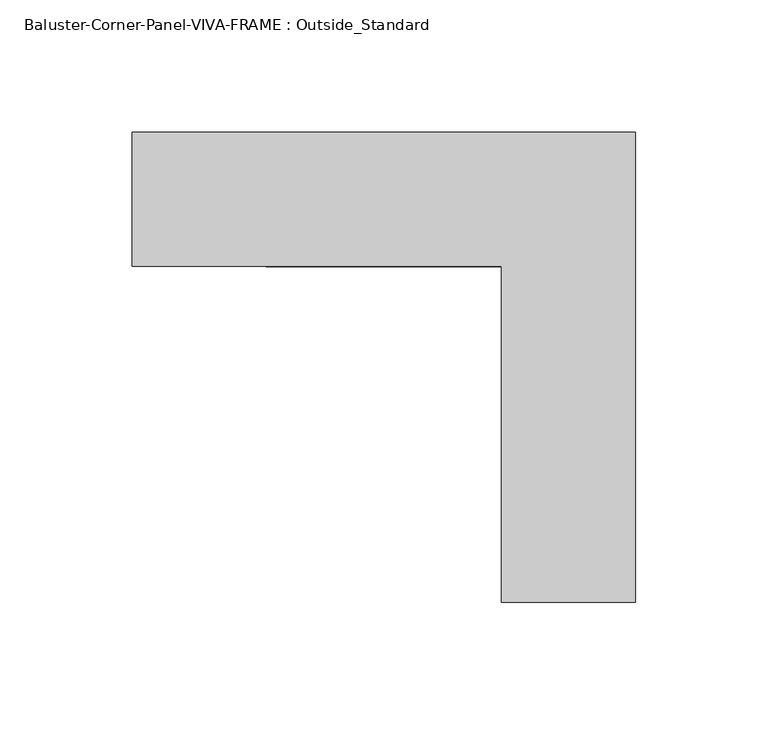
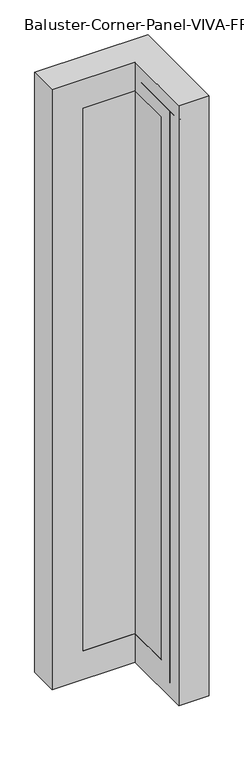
"""IFC4 building model written with IfcOpenShell, lengths in millimetres: railing geometry, Baluster-Corner-Panel-VIVA-FRAME : Outside_Standard."""

import ifcopenshell
import ifcopenshell.guid

model = None  # the IFC model being written
_history = None  # IfcOwnerHistory: only IFC2X3 demands one
_inside = {}  # id of a spatial element -> (the spatial element, [elements in it])
_under = {}  # id of a project, library or spatial element -> (it, [spatial elements below it])
_declared = {}  # id of a project -> (the project, [libraries it declares])
_typed = {}  # id of a type object -> (the type object, [elements of that type])
_made_of = {}  # id of a material, layer set ... -> (it, [elements and type objects made of it])


def new_model(schema):
    """Start an empty IFC model of exactly this schema.

    Asked for "IFC4X3", IfcOpenShell would pick the latest addendum, in which some entities
    have other attributes; the version numbers below select the first issue.
    IFC2X3 requires an IfcOwnerHistory on every rooted entity: one is made here for all.
    """
    global model, _history
    if schema == "IFC4X3":
        model = ifcopenshell.file(schema_version=(4, 3, 0, 0))
    else:
        model = ifcopenshell.file(schema=schema)
    _inside.clear()
    _under.clear()
    _declared.clear()
    _typed.clear()
    _made_of.clear()
    _history = None
    if model.schema == "IFC2X3":
        org = make("IfcOrganization", Name="unknown")
        user = make(
            "IfcPersonAndOrganization",
            ThePerson=make("IfcPerson", FamilyName="unknown"),
            TheOrganization=org,
        )
        app = make(
            "IfcApplication",
            ApplicationDeveloper=org,
            Version="unknown",
            ApplicationFullName="unknown",
            ApplicationIdentifier="unknown",
        )
        _history = make(
            "IfcOwnerHistory",
            OwningUser=user,
            OwningApplication=app,
            ChangeAction="ADDED",
            CreationDate=0,
        )
    return model


def make(cls, **values):
    """One entity of the class cls with the attributes given. An attribute that is None is left unset."""
    return model.create_entity(
        cls, **{name: value for name, value in values.items() if value is not None}
    )


def rooted(cls, **values):
    """An entity with a GlobalId (a new one), such as an element, a storey or a relation."""
    return make(cls, GlobalId=ifcopenshell.guid.new(), OwnerHistory=_history, **values)


def si_unit(unit_type, name, prefix=None):
    """IfcSIUnit, for example si_unit("LENGTHUNIT", "METRE", prefix="MILLI")."""
    return make("IfcSIUnit", UnitType=unit_type, Prefix=prefix, Name=name)


def assignment(units):
    """IfcUnitAssignment: the units of a project."""
    return None if units is None else make("IfcUnitAssignment", Units=units)


def point(xyz):
    """IfcCartesianPoint."""
    return None if xyz is None else make("IfcCartesianPoint", Coordinates=xyz)


def direction(xyz):
    """IfcDirection."""
    return None if xyz is None else make("IfcDirection", DirectionRatios=xyz)


def frame(location, z_axis=None, x_axis=None):
    """IfcAxis2Placement3D, a coordinate frame: its origin and axes. An axis left out is left unset."""
    return make(
        "IfcAxis2Placement3D",
        Location=point(location),
        Axis=direction(z_axis),
        RefDirection=direction(x_axis),
    )


def origin():
    """The frame at (0, 0, 0) with its axes left unset."""
    return frame((0.0, 0.0, 0.0))


def place(relative_to, where):
    """IfcLocalPlacement: puts the frame where relative to a parent placement (None: the world)."""
    return make(
        "IfcLocalPlacement", PlacementRelTo=relative_to, RelativePlacement=where
    )


def context(
    kind, dimensions, precision=None, world=None, true_north=None, identifier=None
):
    """IfcGeometricRepresentationContext, for example the 3D "Model" context."""
    return make(
        "IfcGeometricRepresentationContext",
        ContextIdentifier=identifier,
        ContextType=kind,
        CoordinateSpaceDimension=dimensions,
        Precision=precision,
        WorldCoordinateSystem=world,
        TrueNorth=true_north,
    )


def project(units=None, contexts=None):
    """IfcProject with its units and contexts."""
    return rooted(
        "IfcProject",
        Name="project",
        RepresentationContexts=contexts,
        UnitsInContext=assignment(units),
    )


def spatial(cls, under=None, at=None, **own):
    """A site, building, storey or space (cls), placed at a placement, below another one or the project."""
    s = rooted(cls, ObjectPlacement=at, **own)
    if under is not None:
        _under.setdefault(under.id(), (under, []))[1].append(s)
    return s


def polyline(points):
    """IfcPolyline through the points."""
    return make("IfcPolyline", Points=[point(p) for p in points])


def outline(outer, holes=None, kind="AREA"):
    """IfcArbitraryClosedProfileDef: a profile drawn as a closed curve; with holes, ...WithVoids."""
    if holes is None:
        return make("IfcArbitraryClosedProfileDef", ProfileType=kind, OuterCurve=outer)
    return make(
        "IfcArbitraryProfileDefWithVoids",
        ProfileType=kind,
        OuterCurve=outer,
        InnerCurves=holes,
    )


def extrude(swept, where, along, depth):
    """IfcExtrudedAreaSolid: the profile swept, set in the frame where, extruded along a direction by depth."""
    return make(
        "IfcExtrudedAreaSolid",
        SweptArea=swept,
        Position=where,
        ExtrudedDirection=direction(along),
        Depth=depth,
    )


def faces_of(points, faces, orient=None, outer=None):
    """IfcFace entities. A face is a list of loops; a loop is a list of indices into points, from 0.

    orient and outer hold one flag for each loop. By default every Orientation is true, the
    first loop of a face is its IfcFaceOuterBound and the others are IfcFaceBound.
    """
    made = []
    for i, loops in enumerate(faces):
        bounds = []
        for j, loop in enumerate(loops):
            is_outer = j == 0 if outer is None else outer[i][j]
            bounds.append(
                make(
                    "IfcFaceOuterBound" if is_outer else "IfcFaceBound",
                    Bound=make("IfcPolyLoop", Polygon=[points[k] for k in loop]),
                    Orientation=True if orient is None else orient[i][j],
                )
            )
        made.append(make("IfcFace", Bounds=bounds))
    return made


def faceted_brep(points, faces, orient=None, outer=None, voids=None):
    """IfcFacetedBrep: a solid bounded by flat faces; with voids (closed shells), ...WithVoids."""
    shared = [point(p) for p in points]
    hull = make("IfcClosedShell", CfsFaces=faces_of(shared, faces, orient, outer))
    if voids is None:
        return make("IfcFacetedBrep", Outer=hull)
    return make(
        "IfcFacetedBrepWithVoids",
        Outer=hull,
        Voids=[
            make(cls, CfsFaces=faces_of(shared, fs, o, b)) for cls, fs, o, b in voids
        ],
    )


def shape(context_of_items, identifier, shape_type, items):
    """IfcShapeRepresentation: the items that make up one representation, for example the "Body"."""
    return make(
        "IfcShapeRepresentation",
        ContextOfItems=context_of_items,
        RepresentationIdentifier=identifier,
        RepresentationType=shape_type,
        Items=items,
    )


def source(mapping_origin, context_of_items, identifier, shape_type, items):
    """IfcRepresentationMap: a shape defined once, which mapped items show again and again."""
    return make(
        "IfcRepresentationMap",
        MappingOrigin=mapping_origin,
        MappedRepresentation=shape(context_of_items, identifier, shape_type, items),
    )


def transform(
    local_origin,
    x_axis=None,
    y_axis=None,
    z_axis=None,
    scale=None,
    scale2=None,
    scale3=None,
    uniform=True,
):
    """IfcCartesianTransformationOperator3D, or its non-uniform kind. x_axis, y_axis, z_axis: its Axis1, 2, 3."""
    if uniform:
        return make(
            "IfcCartesianTransformationOperator3D",
            Axis1=direction(x_axis),
            Axis2=direction(y_axis),
            LocalOrigin=point(local_origin),
            Scale=scale,
            Axis3=direction(z_axis),
        )
    return make(
        "IfcCartesianTransformationOperator3DnonUniform",
        Axis1=direction(x_axis),
        Axis2=direction(y_axis),
        LocalOrigin=point(local_origin),
        Scale=scale,
        Axis3=direction(z_axis),
        Scale2=scale2,
        Scale3=scale3,
    )


def mapped(mapping_source, mapping_target):
    """IfcMappedItem: shows the shape of a source again, moved by a transform."""
    return make(
        "IfcMappedItem", MappingSource=mapping_source, MappingTarget=mapping_target
    )


def made_of(thing, what):
    """Note that an element or type object is made of a material, layer set ...; save() writes the relation."""
    if what is not None:
        _made_of.setdefault(what.id(), (what, []))[1].append(thing)
    return thing


def element(
    cls,
    number,
    at=None,
    inside=None,
    cuts=None,
    type_object=None,
    material=None,
    context=None,
    identifier="Body",
    shape_type=None,
    held_by="IfcProductDefinitionShape",
    body=None,
    shapes=None,
    **own,
):
    """One element of the class cls, such as IfcWall. Its Tag is "e" and its number.

    at: its placement. inside: the storey or other place that contains it. cuts: it is an
    opening in that element (IfcRelVoidsElement). A single representation is given by context,
    identifier, shape_type and body (its items); several are given by shapes. held_by: the class
    of the entity that holds the representations. save() writes the other relations.
    """
    e = rooted(cls, Tag="e%d" % number, ObjectPlacement=at, **own)
    if body is not None:
        shapes = [shape(context, identifier, shape_type, body)]
    if shapes is not None:
        e.Representation = make(held_by, Representations=shapes)
    if inside is not None:
        _inside.setdefault(inside.id(), (inside, []))[1].append(e)
    if cuts is not None:
        rooted(
            "IfcRelVoidsElement", RelatingBuildingElement=cuts, RelatedOpeningElement=e
        )
    if type_object is not None:
        _typed.setdefault(type_object.id(), (type_object, []))[1].append(e)
    return made_of(e, material)


def aggregate(whole, parts):
    """IfcRelAggregates: a whole, such as a stair, and the parts it consists of."""
    return rooted("IfcRelAggregates", RelatingObject=whole, RelatedObjects=parts)


def save(model, path):
    """Write the relations noted so far, then the file.

    IfcRelAggregates (storeys below a building ...), IfcRelContainedInSpatialStructure (elements
    in a storey), IfcRelDefinesByType, IfcRelAssociatesMaterial and IfcRelDeclares: one each for
    every whole, place, type object, material and project.
    """
    for whole, parts in _under.values():
        aggregate(whole, parts)
    for where, things in _inside.values():
        rooted(
            "IfcRelContainedInSpatialStructure",
            RelatedElements=things,
            RelatingStructure=where,
        )
    for kind, things in _typed.values():
        rooted("IfcRelDefinesByType", RelatedObjects=things, RelatingType=kind)
    for what, things in _made_of.values():
        rooted("IfcRelAssociatesMaterial", RelatedObjects=things, RelatingMaterial=what)
    for by, libraries in _declared.values():
        rooted("IfcRelDeclares", RelatingContext=by, RelatedDefinitions=libraries)
    model.write(path)


def baluster_corner_panel_viva_frame_outside_standard_ad65f39b(model_context):
    return source(origin(), model_context, "Body", "SolidModel", [
        faceted_brep([(-177.8, -50.8, 1117.6), (-177.8, 0.0, 1117.6), (-177.8, 0.0, 50.7972), (-177.8, -50.8, 50.7972), (-177.8, -50.8, 53.7972), (-177.8, -50.8, 75.7972), (-18.1102, -30.8102, 1066.8), (-18.1102, -127.0, 1066.8), (-38.1, -127.0, 1066.8), (-38.1, -50.8, 1066.8), (-127.0, -50.8, 1066.8), (-127.0, -30.8102, 1066.8), (12.7, 0.0, 1111.6056), (12.7, -171.8056, 1111.6056), (-18.1102, -171.8056, 1111.6056), (-18.1102, -30.8102, 1111.6056), (-171.8056, -30.8102, 1111.6056), (-171.8056, 0.0, 1111.6056), (-38.1, -50.8, 1117.6), (-38.1, -50.8, 50.7972), (-38.1, -50.8, 53.7972), (-38.1, -50.8, 75.7972), (-38.1, -50.8, 101.5972), (-127.0, -50.8, 101.5972), (-127.0, -30.8102, 101.5972), (-18.1102, -30.8102, 101.5972), (-18.1102, -30.8102, 56.7916), (-171.8056, -30.8102, 56.7916), (12.7, 0.0, 1117.6), (-171.8056, 0.0, 56.7916), (12.7, 0.0, 56.7916), (12.7, 0.0, 50.7972), (-18.1102, -127.0, 101.5972), (-38.1, -127.0, 101.5972), (12.7, -171.8056, 56.7916), (-18.1102, -171.8056, 56.7916), (-38.1, -177.8, 1117.6), (12.7, -177.8, 1117.6), (12.7, -177.8, 50.7972), (-38.1, -177.8, 50.7972), (-38.1, -177.8, 53.7972), (-38.1, -177.8, 75.7972)], [[[0, 1, 2, 3, 4, 5]], [[6, 7, 8, 9, 10, 11]], [[12, 13, 14, 15, 16, 17]], [[9, 18, 0, 5, 4, 3, 19, 20, 21, 22, 23, 10]], [[15, 6, 11, 24, 25, 26, 27, 16]], [[28, 12, 17, 29, 30, 31, 2, 1]], [[11, 10, 23, 24]], [[17, 16, 27, 29]], [[32, 25, 24, 23, 22, 33]], [[34, 30, 29, 27, 26, 35]], [[14, 13, 34, 35]], [[8, 7, 32, 33]], [[36, 37, 28, 1, 0, 18]], [[38, 39, 19, 3, 2, 31]], [[12, 28, 37, 38, 31, 30, 34, 13]], [[6, 15, 14, 35, 26, 25, 32, 7]], [[18, 9, 8, 33, 22, 21, 20, 19, 39, 40, 41, 36]], [[37, 36, 41, 40, 39, 38]]]),
        extrude(outline(polyline([(-177.8, -47.8), (-152.8, -47.8), (-152.8, -50.8), (-177.8, -50.8), (-177.8, -47.8)])), frame((0.0, 0.0, 75.7972), z_axis=(0.0, 0.0, 1.0), x_axis=(1.0, 0.0, 0.0)), (0.0, 0.0, 1.0), 1016.8028),
        extrude(outline(polyline([(-38.1, -177.8), (-38.1, -152.8), (-35.1, -152.8), (-35.1, -177.8), (-38.1, -177.8)])), frame((0.0, 0.0, 75.7972), z_axis=(0.0, 0.0, 1.0), x_axis=(1.0, 0.0, 0.0)), (0.0, 0.0, 1.0), 1016.8028),
        extrude(outline(polyline([(-152.8, -47.8), (-35.1, -47.8), (-35.1, -152.8), (-38.1, -152.8), (-38.1, -50.8), (-152.8, -50.8), (-152.8, -47.8)])), frame((0.0, 0.0, 75.7972), z_axis=(0.0, 0.0, 1.0), x_axis=(1.0, 0.0, 0.0)), (0.0, 0.0, 1.0), 1016.8028),
    ])


if __name__ == "__main__":
    model = new_model("IFC4")
    model_context = context("Model", 3, world=origin())
    ifc_project = project(units=[si_unit("LENGTHUNIT", "METRE", prefix="MILLI")], contexts=[model_context])
    site = spatial("IfcSite", under=ifc_project)
    building = spatial("IfcBuilding", under=site)
    placement = place(None, origin())
    baluster_corner_panel_viva_frame_outside_standard_shape = baluster_corner_panel_viva_frame_outside_standard_ad65f39b(model_context)
    element("IfcRailing", 1, ObjectType="Baluster-Corner-Panel-VIVA-FRAME : Outside_Standard", at=placement, inside=building, context=model_context, shape_type="MappedRepresentation", body=[
        mapped(baluster_corner_panel_viva_frame_outside_standard_shape, transform((0.0, 0.0, 0.0), x_axis=(1.0, 0.0, 0.0), y_axis=(0.0, 1.0, 0.0), z_axis=(0.0, 0.0, 1.0))),
    ])
    save(model, "model.ifc")
